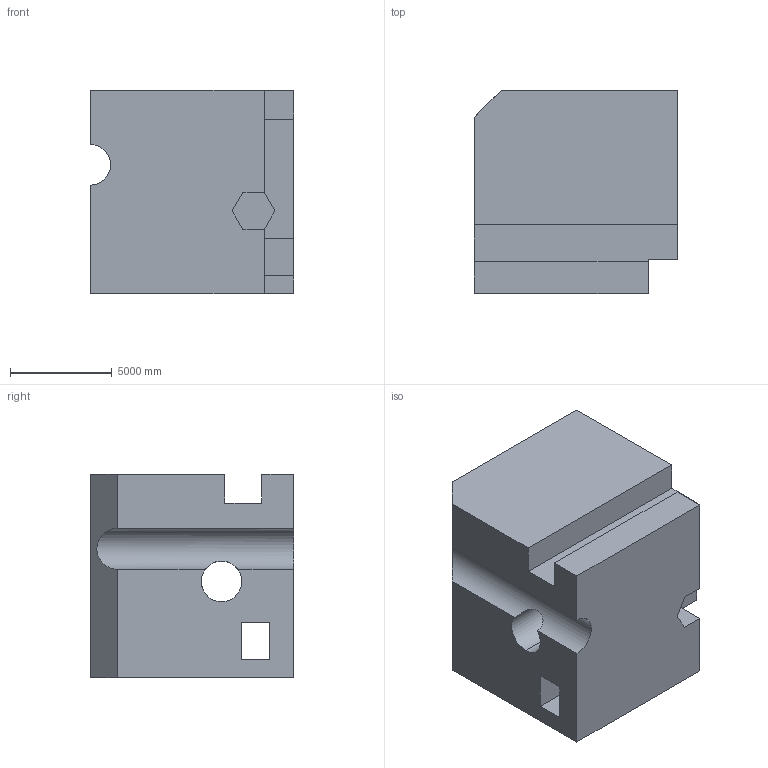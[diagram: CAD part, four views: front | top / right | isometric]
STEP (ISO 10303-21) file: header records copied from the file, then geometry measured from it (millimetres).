
FILE_DESCRIPTION (( 'STEP AP203' ), '1' );
FILE_NAME ('1789.STEP', '2022-08-25T15:47:08', ( 'user' ), ( '' ), 'SwSTEP 2.0', 'SolidWorks 2021', '' );
FILE_SCHEMA (( 'CONFIG_CONTROL_DESIGN' ));
Length unit declared in the file: centimetre
Products named in the file (1): 1789
Bounding box: 10000 x 10000 x 10000 mm (x, y, z)
Volume: 856420755232.1 mm3; surface area: 767260303.2 mm2
Topology: 1 solids, 1 shells, 34 faces, 97 edges, 64 vertices
Faces by surface type: plane 31, cylinder 3
Entity records: 1317 total; most frequent: CARTESIAN_POINT 345, ORIENTED_EDGE 194, DIRECTION 169, EDGE_CURVE 97, VECTOR 89, LINE 89, VERTEX_POINT 64, AXIS2_PLACEMENT_3D 40
